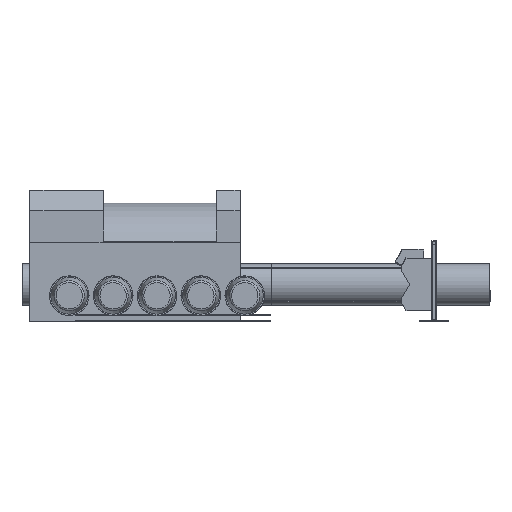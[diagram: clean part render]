
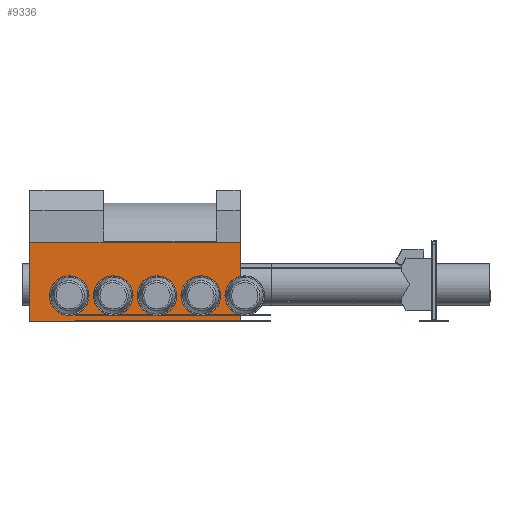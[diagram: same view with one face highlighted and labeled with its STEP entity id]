
A CAD part, left-side view. The second image highlights one B-rep face of the part: STEP entity #9336.
In plain terms, the highlighted planar face has unit normal (-1, 0, 0) as drawn and (0, 0, 1) by its records, which use the part's own axes.
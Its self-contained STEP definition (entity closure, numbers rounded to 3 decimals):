
#568=PLANE('',#10241);
#930=FACE_OUTER_BOUND('',#1482,.T.);
#1482=EDGE_LOOP('',(#6543,#6544,#6545,#6546));
#2106=LINE('',#13455,#3067);
#2112=LINE('',#13477,#3073);
#2116=LINE('',#13484,#3077);
#2119=LINE('',#13489,#3080);
#3067=VECTOR('',#10995,10.);
#3073=VECTOR('',#11017,10.);
#3077=VECTOR('',#11023,10.);
#3080=VECTOR('',#11030,10.);
#4260=VERTEX_POINT('',#13453);
#4261=VERTEX_POINT('',#13454);
#4268=VERTEX_POINT('',#13475);
#4269=VERTEX_POINT('',#13476);
#5144=EDGE_CURVE('',#4260,#4261,#2106,.T.);
#5154=EDGE_CURVE('',#4268,#4269,#2112,.T.);
#5158=EDGE_CURVE('',#4260,#4268,#2116,.T.);
#5161=EDGE_CURVE('',#4261,#4269,#2119,.T.);
#6543=ORIENTED_EDGE('',*,*,#5144,.T.);
#6544=ORIENTED_EDGE('',*,*,#5161,.T.);
#6545=ORIENTED_EDGE('',*,*,#5154,.F.);
#6546=ORIENTED_EDGE('',*,*,#5158,.F.);
#9336=ADVANCED_FACE('',(#930),#568,.T.);
#10241=AXIS2_PLACEMENT_3D('',#13490,#11031,#11032);
#10995=DIRECTION('',(1.,0.,0.));
#11017=DIRECTION('',(1.,0.,0.));
#11023=DIRECTION('',(0.,1.,0.));
#11030=DIRECTION('',(0.,1.,0.));
#11031=DIRECTION('center_axis',(0.,0.,1.));
#11032=DIRECTION('ref_axis',(1.,0.,0.));
#13453=CARTESIAN_POINT('',(0.,0.,250.));
#13454=CARTESIAN_POINT('',(300.,0.,250.));
#13455=CARTESIAN_POINT('',(0.,0.,250.));
#13475=CARTESIAN_POINT('',(0.,800.,250.));
#13476=CARTESIAN_POINT('',(300.,800.,250.));
#13477=CARTESIAN_POINT('',(0.,800.,250.));
#13484=CARTESIAN_POINT('',(0.,0.,250.));
#13489=CARTESIAN_POINT('',(300.,0.,250.));
#13490=CARTESIAN_POINT('Origin',(0.,0.,250.));
